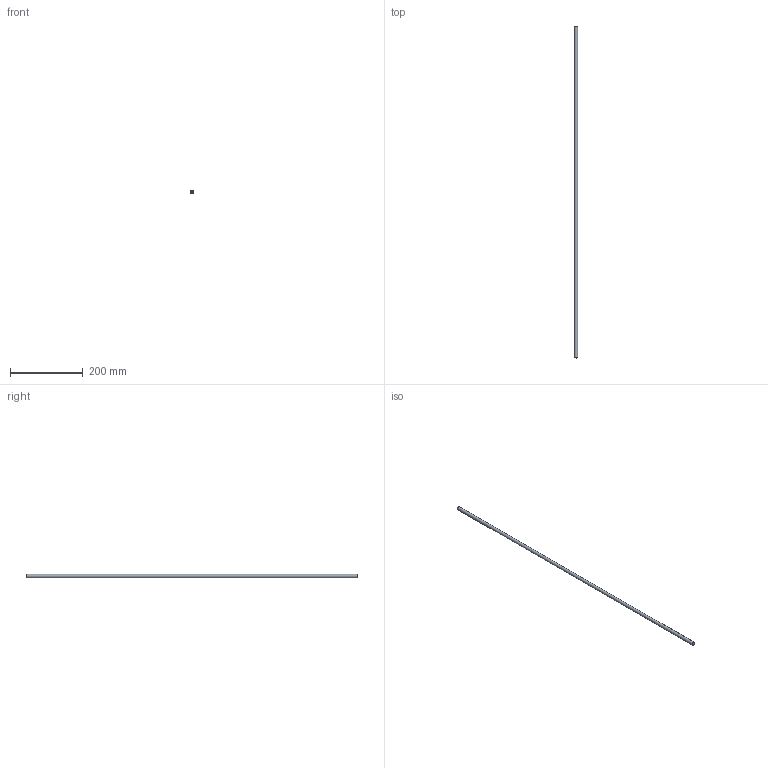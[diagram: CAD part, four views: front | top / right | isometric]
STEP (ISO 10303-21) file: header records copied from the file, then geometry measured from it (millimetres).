
FILE_DESCRIPTION(/* description */ (''),/* implementation_level */ '2;1');
FILE_NAME(/* name */ 'C:/Users/drich/Desktop/375T-36 v1.step',/* time_stamp */ '2019-12-27T17:31:51-06:00',/* author */ (''),/* organization */ (''),/* preprocessor_version */ 'ST-DEVELOPER v18',/* originating_system */ 'Autodesk Translation Framework v8.12.0.6',/* authorisation */ '');
FILE_SCHEMA (('AUTOMOTIVE_DESIGN { 1 0 10303 214 3 1 1 }'));
Length unit declared in the file: inch
Products named in the file (1): 375T-36
Bounding box: 9.41 x 914.4 x 9.41 mm (x, y, z)
Volume: 28999.7 mm3; surface area: 46993.7 mm2
Topology: 1 solids, 1 shells, 6 faces, 14 edges, 10 vertices
Faces by surface type: cone 2, cylinder 2, plane 2
Full cylindrical faces by diameter (mm): 6.934 x1, 9.406 x1
Entity records: 230 total; most frequent: DIRECTION 38, CARTESIAN_POINT 31, ORIENTED_EDGE 28, AXIS2_PLACEMENT_3D 17, EDGE_CURVE 14, CIRCLE 10, VERTEX_POINT 10, EDGE_LOOP 8
